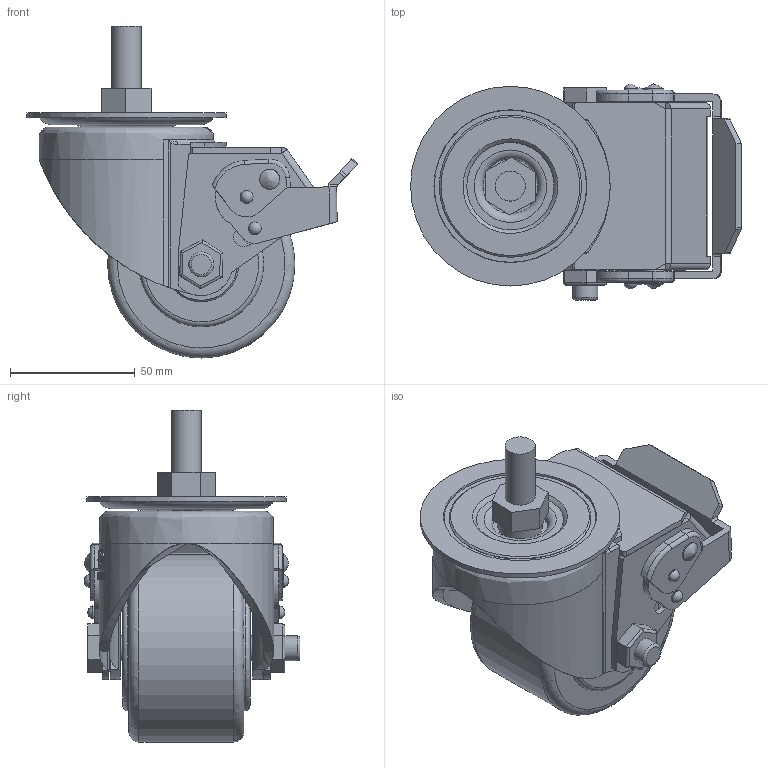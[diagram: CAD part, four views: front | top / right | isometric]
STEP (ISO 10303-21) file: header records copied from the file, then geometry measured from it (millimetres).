
FILE_DESCRIPTION(/* description */ (''),/* implementation_level */ '2;1');
FILE_NAME(/* name */ '30A29_3_F.stp',/* time_stamp */ '2022-10-07T08:35:42+08:00',/* author */ (''),/* organization */ (''),/* preprocessor_version */ 'ST-DEVELOPER v14',/* originating_system */ 'SIEMENS PLM Software NX 8.0',/* authorisation */ '');
FILE_SCHEMA (('AUTOMOTIVE_DESIGN { 1 0 10303 214 3 1 1 1 }'));
Length unit declared in the file: millimetre
Products named in the file (1): 30A29_3_F
Bounding box: 132.56 x 86.5 x 133 mm (x, y, z)
Volume: 318914.9 mm3; surface area: 98316.6 mm2
Topology: 1 solids, 3 shells, 626 faces, 1719 edges, 1125 vertices
Faces by surface type: plane 349, cylinder 180, torus 44, sphere 22, bspline 20, cone 11
Full cylindrical faces by diameter (mm): 5.2 x4, 7.2 x4, 8 x5, 10 x3, 10.2 x3, 12 x1, 12.2 x1, 18 x1, 23.333 x4, 24.05 x2, 30 x5, 50 x2, 57 x1, 62 x1, 75 x1, 80 x1
Entity records: 23250 total; most frequent: CARTESIAN_POINT 8310, ORIENTED_EDGE 3140, DIRECTION 2935, EDGE_CURVE 1570, AXIS2_PLACEMENT_3D 1084, VERTEX_POINT 1064, EDGE_LOOP 772, LINE 767
